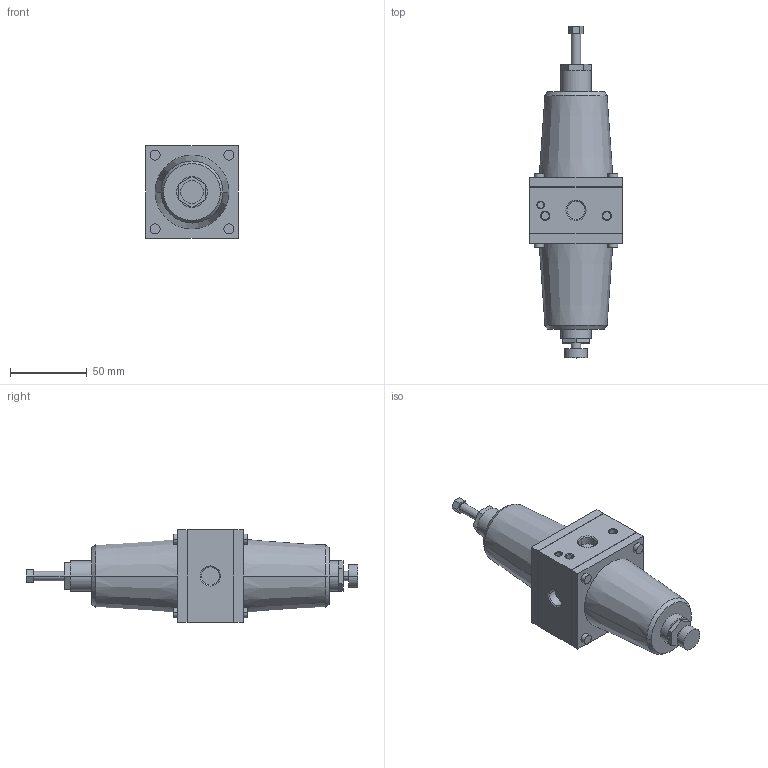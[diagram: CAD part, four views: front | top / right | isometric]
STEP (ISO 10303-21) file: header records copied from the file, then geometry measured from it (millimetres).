
FILE_DESCRIPTION((''),'2;1');
FILE_NAME('0821300410','2020-09-18T17:51:42',('GIO1HC'),(''),'CREO PARAMETRIC BY PTC INC, 2018190','CREO PARAMETRIC BY PTC INC, 2018190','');
FILE_SCHEMA(('AUTOMOTIVE_DESIGN { 1 0 10303 214 1 1 1 1 }'));
Length unit declared in the file: millimetre
Products named in the file (1): 0821300410
Bounding box: 60 x 216 x 60 mm (x, y, z)
Volume: 331215.7 mm3; surface area: 36451.7 mm2
Topology: 1 solids, 1 shells, 141 faces, 293 edges, 182 vertices
Faces by surface type: plane 79, cylinder 40, cone 22
Entity records: 3828 total; most frequent: DIRECTION 693, CARTESIAN_POINT 617, ORIENTED_EDGE 584, EDGE_CURVE 292, AXIS2_PLACEMENT_3D 258, VERTEX_POINT 180, VECTOR 177, LINE 177
